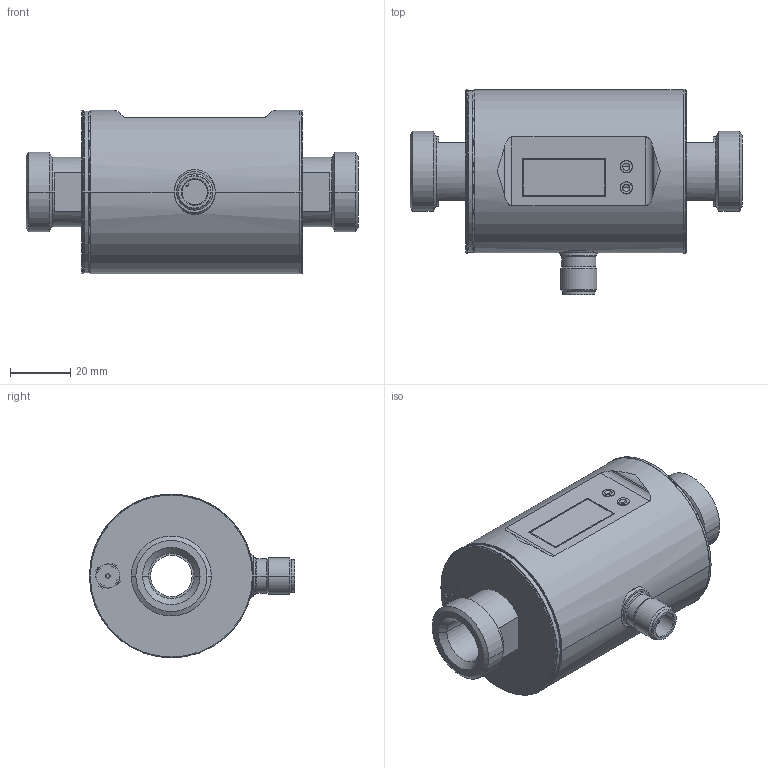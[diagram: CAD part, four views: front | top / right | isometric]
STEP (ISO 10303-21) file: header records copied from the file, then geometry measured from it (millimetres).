
FILE_DESCRIPTION( ( '' ), '1' );
FILE_NAME( '//partserver001.servicenet/client_exchange/iodir/jobs/output/wkb24711937_no0/STEP/sm7000_2_03.stp', '2010-05-03T13:52:33', ( '' ), ( '' ), ' ', ' ', ' ' );
FILE_SCHEMA( ( 'CONFIG_CONTROL_DESIGN' ) );
Length unit declared in the file: millimetre
Products named in the file (1): 1
Bounding box: 109.8 x 67.85 x 54.2 mm (x, y, z)
Volume: 41994.6 mm3; surface area: 38033.1 mm2
Topology: 1 solids, 1 shells, 231 faces, 554 edges, 347 vertices
Faces by surface type: plane 97, cylinder 86, cone 36, sphere 8, torus 4
Entity records: 6917 total; most frequent: CARTESIAN_POINT 1373, DIRECTION 1231, ORIENTED_EDGE 1084, EDGE_CURVE 542, AXIS2_PLACEMENT_3D 477, VERTEX_POINT 347, LINE 277, VECTOR 277
